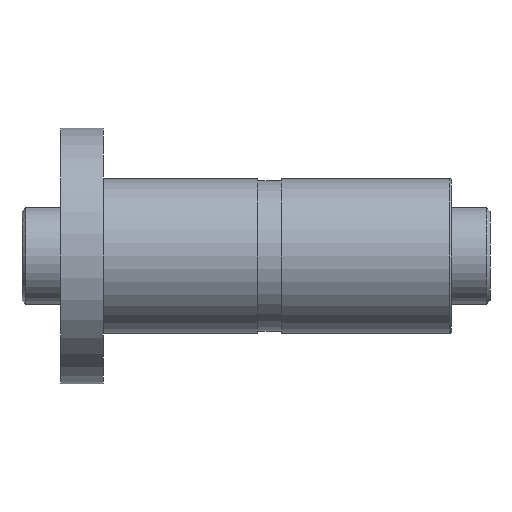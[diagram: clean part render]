
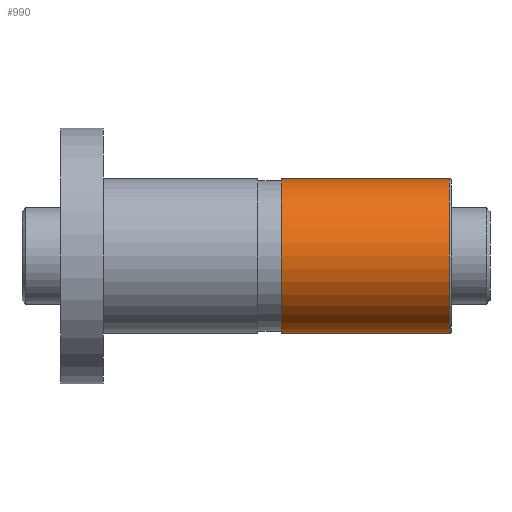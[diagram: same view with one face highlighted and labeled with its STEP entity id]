
A CAD part, front view. The second image highlights one B-rep face of the part: STEP entity #990.
In plain terms, the highlighted cylindrical face has radius 20 mm (diameter 40 mm), a partial arc.
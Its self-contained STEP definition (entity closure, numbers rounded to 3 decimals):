
#280 = DIRECTION ( 'NONE',  ( -1., 0., 0. ) ) ;
#359 = CYLINDRICAL_SURFACE ( 'NONE', #1942, 20. ) ;
#478 = EDGE_LOOP ( 'NONE', ( #2753, #2479, #2996, #1437 ) ) ;
#502 = AXIS2_PLACEMENT_3D ( 'NONE', #4724, #280, #2517 ) ;
#745 = DIRECTION ( 'NONE',  ( 0., 0., -1. ) ) ;
#940 = VECTOR ( 'NONE', #1560, 1000. ) ;
#981 = EDGE_CURVE ( 'NONE', #1623, #1448, #4730, .T. ) ;
#990 = ADVANCED_FACE ( 'NONE', ( #1575 ), #359, .T. ) ;
#1437 = ORIENTED_EDGE ( 'NONE', *, *, #981, .T. ) ;
#1448 = VERTEX_POINT ( 'NONE', #3227 ) ;
#1475 = EDGE_CURVE ( 'NONE', #1656, #3951, #1644, .T. ) ;
#1543 = CARTESIAN_POINT ( 'NONE',  ( 101., 0., -20. ) ) ;
#1560 = DIRECTION ( 'NONE',  ( -1., 0., 0. ) ) ;
#1575 = FACE_OUTER_BOUND ( 'NONE', #478, .T. ) ;
#1623 = VERTEX_POINT ( 'NONE', #4423 ) ;
#1644 = CIRCLE ( 'NONE', #502, 20. ) ;
#1656 = VERTEX_POINT ( 'NONE', #3714 ) ;
#1674 = CARTESIAN_POINT ( 'NONE',  ( 101., 0., 20. ) ) ;
#1830 = CARTESIAN_POINT ( 'NONE',  ( 101., 0., 0. ) ) ;
#1928 = LINE ( 'NONE', #1543, #940 ) ;
#1942 = AXIS2_PLACEMENT_3D ( 'NONE', #1830, #4383, #2901 ) ;
#2031 = DIRECTION ( 'NONE',  ( -1., 0., 0. ) ) ;
#2334 = AXIS2_PLACEMENT_3D ( 'NONE', #3994, #3624, #745 ) ;
#2479 = ORIENTED_EDGE ( 'NONE', *, *, #1475, .T. ) ;
#2517 = DIRECTION ( 'NONE',  ( 0., 0., -1. ) ) ;
#2753 = ORIENTED_EDGE ( 'NONE', *, *, #3737, .F. ) ;
#2838 = VECTOR ( 'NONE', #2031, 1000. ) ;
#2901 = DIRECTION ( 'NONE',  ( 0., 0., 1. ) ) ;
#2996 = ORIENTED_EDGE ( 'NONE', *, *, #3468, .T. ) ;
#3081 = CARTESIAN_POINT ( 'NONE',  ( 100.5, 0., 20. ) ) ;
#3227 = CARTESIAN_POINT ( 'NONE',  ( 57., 0., -20. ) ) ;
#3468 = EDGE_CURVE ( 'NONE', #3951, #1623, #3812, .T. ) ;
#3624 = DIRECTION ( 'NONE',  ( 1., 0., 0. ) ) ;
#3714 = CARTESIAN_POINT ( 'NONE',  ( 100.5, 0., -20. ) ) ;
#3737 = EDGE_CURVE ( 'NONE', #1656, #1448, #1928, .T. ) ;
#3812 = LINE ( 'NONE', #1674, #2838 ) ;
#3951 = VERTEX_POINT ( 'NONE', #3081 ) ;
#3994 = CARTESIAN_POINT ( 'NONE',  ( 57., 0., 0. ) ) ;
#4383 = DIRECTION ( 'NONE',  ( -1., 0., 0. ) ) ;
#4423 = CARTESIAN_POINT ( 'NONE',  ( 57., 0., 20. ) ) ;
#4724 = CARTESIAN_POINT ( 'NONE',  ( 100.5, 0., 0. ) ) ;
#4730 = CIRCLE ( 'NONE', #2334, 20. ) ;
